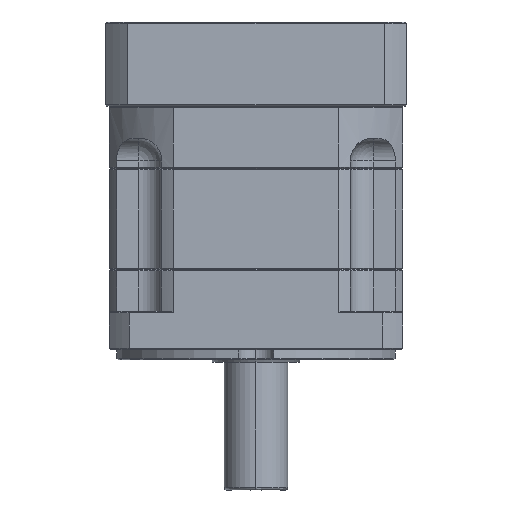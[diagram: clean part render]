
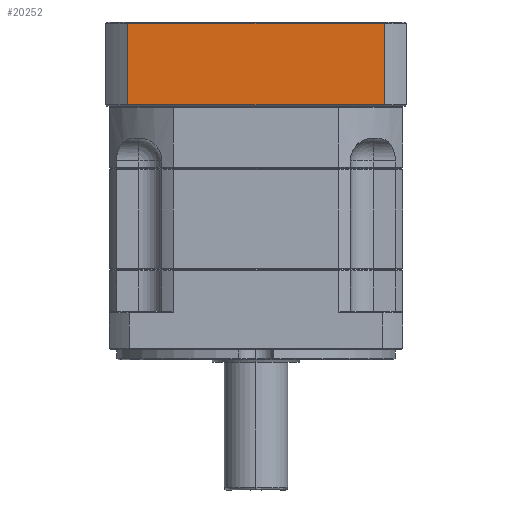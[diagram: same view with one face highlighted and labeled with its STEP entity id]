
A CAD part, left-side view. The second image highlights one B-rep face of the part: STEP entity #20252.
In plain terms, the highlighted planar face has unit normal (-1, 0, 0).
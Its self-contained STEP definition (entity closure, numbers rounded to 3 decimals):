
#3846 = CARTESIAN_POINT ( 'NONE',  ( -4.013, 136.12, 37.335 ) ) ;
#5151 = EDGE_LOOP ( 'NONE', ( #104469, #29471, #84889, #49901 ) ) ;
#8477 = LINE ( 'NONE', #92001, #80664 ) ;
#10726 = DIRECTION ( 'NONE',  ( 0., -1., 0. ) ) ;
#15886 = DIRECTION ( 'NONE',  ( 1., 0., 0. ) ) ;
#17418 = DIRECTION ( 'NONE',  ( 0., 0., -1. ) ) ;
#20252 = ADVANCED_FACE ( 'NONE', ( #91382 ), #72349, .F. ) ;
#20938 = EDGE_CURVE ( 'NONE', #97529, #60660, #92511, .T. ) ;
#21587 = VERTEX_POINT ( 'NONE', #3846 ) ;
#29471 = ORIENTED_EDGE ( 'NONE', *, *, #62862, .T. ) ;
#39752 = VECTOR ( 'NONE', #114089, 1000. ) ;
#46988 = EDGE_CURVE ( 'NONE', #21587, #97529, #52322, .T. ) ;
#47268 = VERTEX_POINT ( 'NONE', #105617 ) ;
#49901 = ORIENTED_EDGE ( 'NONE', *, *, #20938, .T. ) ;
#51327 = CARTESIAN_POINT ( 'NONE',  ( -4.013, 136.12, 5.335 ) ) ;
#52322 = LINE ( 'NONE', #110217, #117238 ) ;
#60660 = VERTEX_POINT ( 'NONE', #80082 ) ;
#62862 = EDGE_CURVE ( 'NONE', #47268, #21587, #64831, .T. ) ;
#64050 = AXIS2_PLACEMENT_3D ( 'NONE', #102001, #15886, #101587 ) ;
#64831 = LINE ( 'NONE', #104198, #39752 ) ;
#67442 = VECTOR ( 'NONE', #10726, 1000. ) ;
#72349 = PLANE ( 'NONE',  #64050 ) ;
#80082 = CARTESIAN_POINT ( 'NONE',  ( -4.013, 35.617, 5.335 ) ) ;
#80664 = VECTOR ( 'NONE', #17418, 1000. ) ;
#84889 = ORIENTED_EDGE ( 'NONE', *, *, #46988, .T. ) ;
#85292 = EDGE_CURVE ( 'NONE', #47268, #60660, #8477, .T. ) ;
#91382 = FACE_OUTER_BOUND ( 'NONE', #5151, .T. ) ;
#92001 = CARTESIAN_POINT ( 'NONE',  ( -4.013, 35.617, 37.835 ) ) ;
#92511 = LINE ( 'NONE', #95561, #67442 ) ;
#95561 = CARTESIAN_POINT ( 'NONE',  ( -4.013, 35.617, 5.335 ) ) ;
#97529 = VERTEX_POINT ( 'NONE', #51327 ) ;
#101587 = DIRECTION ( 'NONE',  ( 0., 1., 0. ) ) ;
#102001 = CARTESIAN_POINT ( 'NONE',  ( -4.013, 35.617, 37.835 ) ) ;
#104198 = CARTESIAN_POINT ( 'NONE',  ( -4.013, 136.12, 37.335 ) ) ;
#104469 = ORIENTED_EDGE ( 'NONE', *, *, #85292, .F. ) ;
#105617 = CARTESIAN_POINT ( 'NONE',  ( -4.013, 35.617, 37.335 ) ) ;
#110217 = CARTESIAN_POINT ( 'NONE',  ( -4.013, 136.12, 37.835 ) ) ;
#114089 = DIRECTION ( 'NONE',  ( 0., 1., 0. ) ) ;
#117238 = VECTOR ( 'NONE', #119702, 1000. ) ;
#119702 = DIRECTION ( 'NONE',  ( 0., 0., -1. ) ) ;
